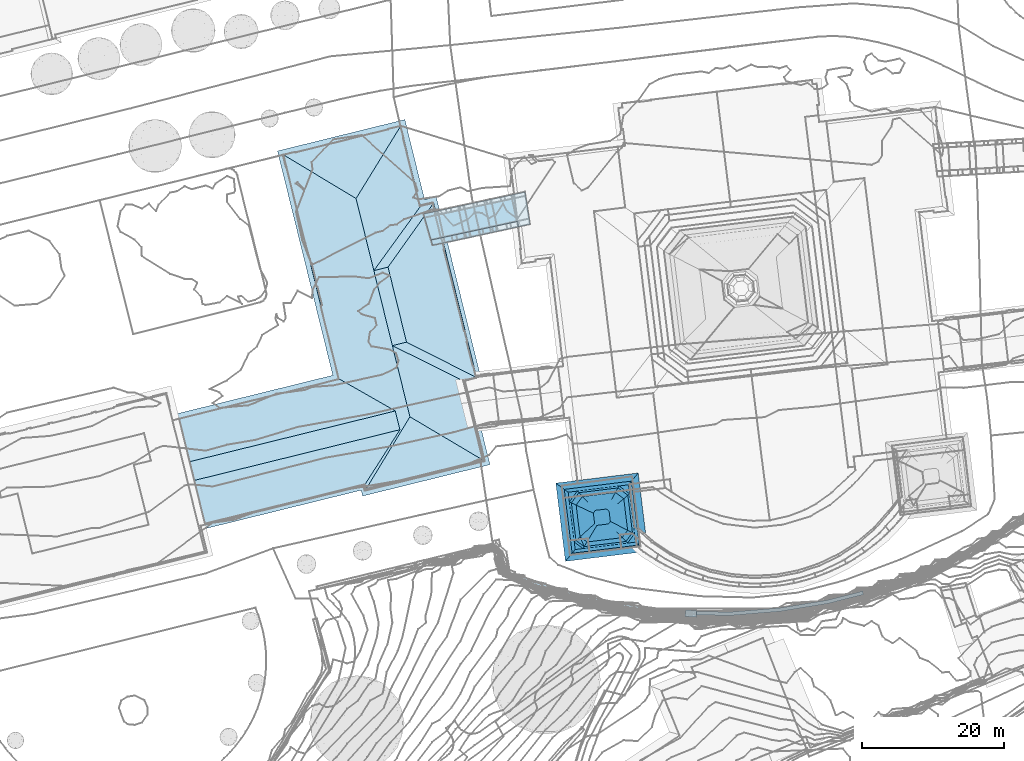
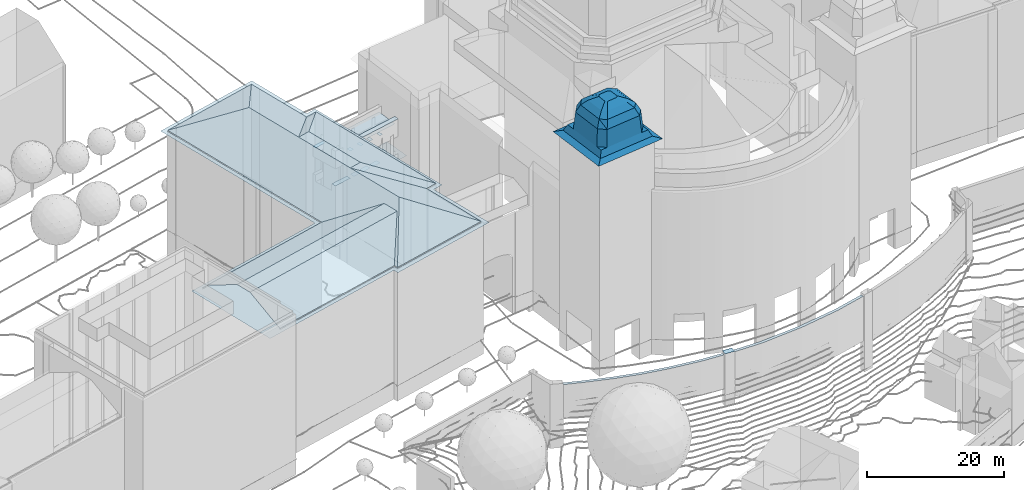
# Not in any storey, part 83 of 477: 18 roofs.
"""IFC4 building model written with IfcOpenShell, lengths in metres."""

from ifc_helpers import new_model, si_unit, frame, origin_with_axes, place, context, subcontext, project, spatial, polygons, element, save


model = new_model("IFC4")

# Units and contexts
model_context = context("Model", 3, precision=1e-05, world=origin_with_axes())
body_context = subcontext(model_context, "Body", "Model", "MODEL_VIEW")
ifc_project = project(units=[si_unit("AREAUNIT", "SQUARE_METRE"), si_unit("LENGTHUNIT", "METRE")], contexts=[model_context])

# Sites, building
site_1_placement = place(None, origin_with_axes())
site_1 = spatial("IfcSite", under=ifc_project, at=site_1_placement, Name="Topoexport Site")
site_2_placement = place(site_1_placement, origin_with_axes())
site_2 = spatial("IfcSite", under=site_1, at=site_2_placement, Name="TPX_BUILDINGS")
building_1_placement = place(site_2_placement, frame((211.8297320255, 101.9383160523, 526.7541), z_axis=(0.0, 0.0, 1.0), x_axis=(1.0, 0.0, 0.0)))
building_1 = spatial("IfcBuilding", under=site_2, at=building_1_placement, Name="Building 18", CompositionType="ELEMENT")

# Roofs
roof_1_placement = place(None, frame((211.8297320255, 101.9383160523, 526.7541), z_axis=(0.0, 0.0, 1.0), x_axis=(1.0, 0.0, 0.0)))
element("IfcRoof", 1, at=roof_1_placement, inside=building_1, Name="Roof 3", context=body_context, shape_type="Tessellation", body=[
    polygons([(276.8790000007, 291.5137000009, 24.302), (279.5840000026, 292.9023000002, 24.302), (279.751000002, 292.1328000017, 24.302), (276.6600000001, 292.2723999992, 24.302)], [[[3, 2, 1]], [[4, 1, 2]]]),
])
roof_2_placement = place(None, frame((211.8297320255, 101.9383160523, 526.7541), z_axis=(0.0, 0.0, 1.0), x_axis=(1.0, 0.0, 0.0)))
element("IfcRoof", 2, at=roof_2_placement, inside=building_1, Name="Roof 5", context=body_context, shape_type="Tessellation", body=[
    polygons([(280.4050000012, 292.2734000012, 24.302), (281.5109999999, 293.317400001, 24.302), (281.6770000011, 292.5478000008, 24.302), (280.2390000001, 293.0430000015, 24.302)], [[[3, 2, 1]], [[4, 1, 2]]]),
])
roof_3_placement = place(None, frame((211.8297320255, 101.9383160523, 526.7541), z_axis=(0.0, 0.0, 1.0), x_axis=(1.0, 0.0, 0.0)))
element("IfcRoof", 3, at=roof_3_placement, inside=building_1, Name="Roof 6", context=body_context, shape_type="Tessellation", body=[
    polygons([(282.0480000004, 293.433600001, 24.302), (283.4030000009, 293.7256000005, 24.302), (283.569000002, 292.9550999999, 24.302), (282.2129999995, 292.6631000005, 24.302)], [[[3, 2, 1]], [[1, 4, 3]]]),
])
roof_4_placement = place(None, frame((211.8297320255, 101.9383160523, 526.7541), z_axis=(0.0, 0.0, 1.0), x_axis=(1.0, 0.0, 0.0)))
element("IfcRoof", 4, at=roof_4_placement, inside=building_1, Name="Roof 7", context=body_context, shape_type="Tessellation", body=[
    polygons([(284.1090000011, 293.0713, 24.302), (285.3049999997, 294.1356999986, 24.302), (285.4720000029, 293.3652000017, 24.302), (283.943, 293.8418000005, 24.302)], [[[3, 2, 1]], [[4, 1, 2]]]),
])
roof_5_placement = place(None, frame((211.8297320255, 101.9383160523, 526.7541), z_axis=(0.0, 0.0, 1.0), x_axis=(1.0, 0.0, 0.0)))
element("IfcRoof", 5, at=roof_5_placement, inside=building_1, Name="Roof 9", context=body_context, shape_type="Tessellation", body=[
    polygons([(290.5290000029, 295.2606999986, 23.1101), (276.8790000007, 291.5137000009, 23.1101), (290.0230000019, 298.4756000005, 23.1101), (275.756000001, 295.4052999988, 23.1101), (290.6510000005, 294.4814000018, 23.1101), (275.7540000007, 295.4101000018, 23.1101), (289.932, 299.0566000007, 23.1101), (275.5940000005, 295.9657999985, 23.1101)], [[[3, 2, 1]], [[4, 2, 3]], [[2, 5, 1]], [[3, 7, 6]], [[3, 6, 4]], [[7, 8, 6]]]),
])
roof_6_placement = place(None, frame((211.8297320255, 101.9383160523, 526.7541), z_axis=(0.0, 0.0, 1.0), x_axis=(1.0, 0.0, 0.0)))
element("IfcRoof", 6, at=roof_6_placement, inside=building_1, Name="Roof 16", context=body_context, shape_type="Tessellation", body=[
    polygons([(283.943, 293.8418000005, 29.1525), (284.1090000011, 293.0722000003, 29.1525), (283.569000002, 292.9560000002, 29.1525), (283.4030000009, 293.7245999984, 29.1525)], [[[3, 2, 1]], [[1, 4, 3]]]),
])
roof_7_placement = place(None, frame((211.8297320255, 101.9383160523, 526.7541), z_axis=(0.0, 0.0, 1.0), x_axis=(1.0, 0.0, 0.0)))
element("IfcRoof", 7, at=roof_7_placement, inside=building_1, Name="Roof 18", context=body_context, shape_type="Tessellation", body=[
    polygons([(280.4050000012, 292.2743999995, 29.1525), (279.5840000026, 292.9023000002, 29.1525), (280.2390000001, 293.0430000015, 29.1525), (279.751000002, 292.1328000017, 29.1525)], [[[3, 2, 1]], [[4, 1, 2]]]),
])
roof_8_placement = place(None, frame((211.8297320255, 101.9383160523, 526.7541), z_axis=(0.0, 0.0, 1.0), x_axis=(1.0, 0.0, 0.0)))
element("IfcRoof", 8, at=roof_8_placement, inside=building_1, Name="Roof 20", context=body_context, shape_type="Tessellation", body=[
    polygons([(285.8230000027, 294.246100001, 29.1525), (285.9890000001, 293.4765000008, 29.1525), (285.4720000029, 293.3662, 29.1525), (285.3049999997, 294.1347000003, 29.1525)], [[[3, 2, 1]], [[1, 4, 3]]]),
])
roof_9_placement = place(None, frame((211.8297320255, 101.9383160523, 526.7541), z_axis=(0.0, 0.0, 1.0), x_axis=(1.0, 0.0, 0.0)))
element("IfcRoof", 9, at=roof_9_placement, inside=building_1, Name="Roof 24", context=body_context, shape_type="Tessellation", body=[
    polygons([(282.2129999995, 292.6631000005, 29.1525), (281.5109999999, 293.316399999, 29.1525), (282.0480000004, 293.432599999, 29.1525), (281.6770000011, 292.5478000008, 29.1525)], [[[3, 2, 1]], [[4, 1, 2]]]),
])
roof_10_placement = place(None, frame((211.8297320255, 101.9383160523, 526.7541), z_axis=(0.0, 0.0, 1.0), x_axis=(1.0, 0.0, 0.0)))
element("IfcRoof", 10, at=roof_10_placement, inside=building_1, Name="Roof 78", context=body_context, shape_type="Tessellation", body=[
    polygons([(299.6730000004, 241.6748000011, 13.1968), (295.568, 242.2245999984, 13.1968), (295.7070000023, 242.7060000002, 13.1968), (299.5620000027, 241.1845999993, 13.1968), (291.0769999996, 243.6523000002, 13.1968), (291.2360000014, 244.128899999, 13.1968), (288.2880000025, 244.6356999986, 13.1968), (288.4350000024, 245.1152000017, 13.1968), (308.8210000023, 239.6748000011, 13.1968), (304.0160000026, 240.3407999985, 13.1968), (308.8740000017, 240.1737999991, 13.1968), (312.5280000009, 239.4081999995, 13.1968), (304.0970000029, 240.8348999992, 13.1968), (312.6000000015, 239.9061999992, 13.1968)], [[[3, 2, 1]], [[1, 2, 4]], [[2, 3, 5]], [[8, 7, 6]], [[5, 6, 7]], [[6, 5, 3]], [[11, 10, 9]], [[11, 9, 12]], [[1, 4, 13]], [[14, 11, 12]], [[13, 10, 11]], [[13, 4, 10]]]),
])
roof_11_placement = place(None, frame((211.8297320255, 101.9383160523, 526.7541), z_axis=(0.0, 0.0, 1.0), x_axis=(1.0, 0.0, 0.0)))
element("IfcRoof", 11, at=roof_11_placement, inside=building_1, Name="Roof 79", context=body_context, shape_type="Tessellation", body=[
    polygons([(314.1160000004, 239.9472000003, 13.5627), (312.4869999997, 239.1259999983, 13.5627), (312.6220000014, 240.0546999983, 13.5627), (314.1410000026, 239.0088, 13.5627)], [[[3, 2, 1]], [[4, 1, 2]]]),
])
roof_12_placement = place(None, frame((211.8297320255, 101.9383160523, 526.7541), z_axis=(0.0, 0.0, 1.0), x_axis=(1.0, 0.0, 0.0)))
element("IfcRoof", 12, at=roof_12_placement, inside=building_1, Name="Roof 80", context=body_context, shape_type="Tessellation", body=[
    polygons([(318.8550000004, 239.754900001, 13.1968), (318.8709999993, 239.2518999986, 13.1968), (314.132000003, 239.3476000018, 13.1968), (314.1180000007, 239.8495999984, 13.1968), (325.882000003, 240.3310000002, 13.1968), (325.943, 239.8330000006, 13.1968), (332.5710000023, 241.4277000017, 13.1968), (332.6730000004, 240.9354999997, 13.1968), (337.6970000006, 242.2089999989, 13.1968), (337.6030000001, 242.7030999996, 13.1968)], [[[3, 2, 1]], [[1, 4, 3]], [[5, 1, 2]], [[2, 6, 5]], [[8, 7, 5]], [[9, 7, 8]], [[7, 9, 10]], [[5, 6, 8]]]),
])

# Building
building_2_placement = place(site_2_placement, frame((516.5377320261, 359.7107160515, 536.6602), z_axis=(0.0, 0.0, 1.0), x_axis=(1.0, 0.0, 0.0)))
building_2 = spatial("IfcBuilding", under=site_2, at=building_2_placement, Name="Building 193", CompositionType="ELEMENT")

# Roofs
roof_13_placement = place(None, frame((516.5377320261, 359.7107160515, 536.6602), z_axis=(0.0, 0.0, 1.0), x_axis=(1.0, 0.0, 0.0)))
element("IfcRoof", 13, at=roof_13_placement, inside=building_2, Name="Roof 18", context=body_context, shape_type="Tessellation", body=[
    polygons([(-16.0130000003, 38.6807000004, 19.2464), (-29.1140000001, 38.1933999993, 19.2464), (-16.2919999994, 40.9571000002, 19.2464), (-28.0480000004, 34.5, 19.2464), (-15.8289999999, 37.1338, 19.2464)], [[[3, 2, 1]], [[4, 1, 2]], [[4, 5, 1]]]),
])
roof_14_placement = place(None, frame((516.5377320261, 359.7107160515, 536.6602), z_axis=(0.0, 0.0, 1.0), x_axis=(1.0, 0.0, 0.0)))
element("IfcRoof", 14, at=roof_14_placement, inside=building_2, Name="Roof 19", context=body_context, shape_type="Tessellation", body=[
    polygons([(-15.7249999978, 36.3476999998, 20.6043), (-28.0480000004, 34.5, 20.6043), (-15.8220000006, 37.134800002, 20.6043), (-27.8289999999, 33.7402999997, 20.6043)], [[[3, 2, 1]], [[4, 1, 2]]]),
])
roof_15_placement = place(None, frame((516.5377320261, 359.7107160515, 536.6602), z_axis=(0.0, 0.0, 1.0), x_axis=(1.0, 0.0, 0.0)))
element("IfcRoof", 15, at=roof_15_placement, inside=building_2, Name="Roof 23", context=body_context, shape_type="Tessellation", body=[
    polygons([(-1.0689999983, -7.5233999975, 44.0418), (-6.0419999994, -8.1327999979, 44.0418), (-5.4679999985, -7.1756999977, 44.8107), (-1.8550000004, -6.7324000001, 44.8107), (-4.6380000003, -5.7890000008, 45.3877), (-2.9930000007, -5.5868999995, 45.3877), (-7.7060000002, -9.1981999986, 39.8132), (-7.8350000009, -8.1464000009, 39.8132), (-6.5980000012, -9.0625, 39.8132), (-0.2989999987, -6.4803999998, 44.0418), (-1.2949999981, -5.9736000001, 44.8107), (-2.737999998, -5.2421000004, 45.3877), (-8.6999999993, -1.1092999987, 39.8132), (-7.4039999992, -0.9501999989, 39.8132), (-8.5319999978, -2.4736000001, 39.8132), (0.813000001, -8.1512999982, 39.8132), (-0.3079999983, -8.2890000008, 39.8132), (0.6680000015, -6.9706999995, 39.8132), (-6.1789999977, -6.6502999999, 44.8107), (-7.5709999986, -2.9247999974, 44.0418), (-6.5789999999, -3.3915999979, 44.8107), (-7.0199999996, -7.4100999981, 44.0418), (-4.9620000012, -5.5497999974, 45.3877), (-5.1429999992, -4.066399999, 45.3877), (-0.5339999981, -8.061499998, 42.7929), (-6.4329999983, -8.7850999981, 42.7929), (-7.5920000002, -7.9256999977, 42.7929), (0.379999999, -6.8251999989, 42.7929), (-8.1359999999, -9.7196999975, 38.7563), (1.3559999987, -8.5537, 38.7563), (-9.2430000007, -0.7060000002, 38.7563), (-8.2459999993, -2.6092999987, 42.7929), (-3.4840000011, -8.4228000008, 42.7889), (-0.3079999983, -8.2890000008, 39.6132), (-6.4329999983, -8.7850999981, 42.5929), (-6.5980000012, -9.0625, 39.6132), (-0.5339999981, -8.061499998, 42.5929), (-7.8350000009, -8.1464000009, 39.6132), (-7.5920000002, -7.9256999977, 42.5929), (-8.2459999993, -2.6092999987, 42.5929), (-8.5319999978, -2.4736000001, 39.6132), (0.379999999, -6.8251999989, 42.5929), (0.6680000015, -6.9706999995, 39.6132)], [[[3, 2, 1]], [[1, 4, 3]], [[5, 3, 4]], [[4, 6, 5]], [[9, 8, 7]], [[1, 10, 4]], [[11, 4, 10]], [[4, 11, 6]], [[12, 6, 11]], [[15, 14, 13]], [[18, 17, 16]], [[21, 20, 19]], [[22, 19, 20]], [[24, 21, 23]], [[19, 23, 21]], [[2, 26, 25]], [[25, 1, 2]], [[26, 22, 27]], [[1, 25, 10]], [[28, 10, 25]], [[29, 9, 7]], [[9, 29, 17]], [[17, 30, 16]], [[30, 17, 29]], [[31, 15, 13]], [[15, 31, 29]], [[8, 29, 7]], [[29, 8, 15]], [[20, 32, 22]], [[27, 22, 32]], [[25, 26, 33]], [[36, 35, 34]], [[37, 34, 35]], [[26, 9, 33]], [[33, 17, 25]], [[17, 33, 9]], [[26, 27, 8]], [[8, 9, 26]], [[39, 35, 38]], [[36, 38, 35]], [[32, 15, 27]], [[8, 27, 15]], [[41, 40, 39]], [[39, 38, 41]], [[28, 25, 18]], [[17, 18, 25]], [[37, 42, 34]], [[43, 34, 42]]]),
])
roof_16_placement = place(None, frame((516.5377320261, 359.7107160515, 536.6602), z_axis=(0.0, 0.0, 1.0), x_axis=(1.0, 0.0, 0.0)))
element("IfcRoof", 16, at=roof_16_placement, inside=building_2, Name="Roof 24", context=body_context, shape_type="Tessellation", body=[
    polygons([(-6.5789999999, -3.3915999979, 44.8107), (-6.6789999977, -1.7206999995, 44.0418), (-5.9299999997, -2.5165999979, 44.8107), (-7.5709999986, -2.9247999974, 44.0418), (-5.1429999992, -4.066399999, 45.3877), (-4.8480000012, -3.6668999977, 45.3877), (-2.0209999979, -1.1483999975, 44.0418), (-2.5469999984, -2.1004999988, 44.8107), (-3.3079999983, -3.4793999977, 45.3877), (-7.0199999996, -7.4100999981, 44.0418), (-6.1789999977, -6.6502999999, 44.8107), (-5.4679999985, -7.1756999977, 44.8107), (-6.0419999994, -8.1327999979, 44.0418), (-4.9620000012, -5.5497999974, 45.3877), (-4.6380000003, -5.7890000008, 45.3877), (-2.737999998, -5.2421000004, 45.3877), (-2.9930000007, -5.5868999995, 45.3877), (-2.9189999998, -3.7665999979, 45.3877), (-0.8460000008, -2.0174999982, 44.0418), (-0.2989999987, -6.4803999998, 44.0418), (-1.2949999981, -5.9736000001, 44.8107), (-1.693, -2.7333999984, 44.8107), (-8.1359999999, -9.7196999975, 38.7563), (1.3559999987, -8.5537, 38.7563), (-8.3619999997, -9.9941000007, 38.6693), (-9.0810000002, -10.8671000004, 38.3933), (2.550999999, -9.4384000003, 38.3933), (-9.2430000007, -0.7060000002, 38.7563), (-9.5489999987, -0.4794999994, 38.6633), (-10.438000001, 0.1777999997, 38.3934), (1.194000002, 1.6075000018, 38.3933), (0.4129999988, 0.6601999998, 38.6933), (0.2490000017, 0.4600000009, 38.7563), (-0.180999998, -0.0634000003, 39.8132), (-0.0260000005, -1.3270999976, 39.8132), (-1.5119999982, -0.2254999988, 39.8132), (-7.188000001, -1.1796000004, 42.7929), (-8.2459999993, -2.6092999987, 42.7929), (-1.6640000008, -0.5009000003, 42.7929), (-6.4329999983, -8.7850999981, 42.7929), (-0.2699999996, -1.5331999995, 42.7929), (0.379999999, -6.8251999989, 42.7929), (-8.6999999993, -1.1092999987, 39.8132), (-7.4039999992, -0.9501999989, 39.8132), (0.813000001, -8.1512999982, 39.8132), (0.6680000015, -6.9706999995, 39.8132), (-8.5319999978, -2.4736000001, 39.8132), (-8.2459999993, -2.6092999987, 42.5929), (-7.4039999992, -0.9501000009, 39.6132), (-8.5319999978, -2.4736000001, 39.6132), (-7.188000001, -1.1796000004, 42.5929), (-1.6640000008, -0.5009000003, 42.5929), (-1.5119999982, -0.2254999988, 39.6132), (-0.0260000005, -1.3270999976, 39.6132), (0.379999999, -6.8251999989, 42.5929), (0.6680000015, -6.9706999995, 39.6132), (-0.2699999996, -1.5331999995, 42.5929)], [[[3, 2, 1]], [[4, 1, 2]], [[3, 1, 5]], [[5, 6, 3]], [[8, 7, 3]], [[2, 3, 7]], [[9, 8, 6]], [[3, 6, 8]], [[12, 11, 10]], [[10, 13, 12]], [[15, 14, 11]], [[11, 12, 15]], [[14, 15, 5]], [[9, 6, 5]], [[5, 15, 9]], [[17, 16, 9]], [[18, 9, 16]], [[17, 9, 15]], [[21, 20, 19]], [[19, 22, 21]], [[16, 21, 22]], [[22, 18, 16]], [[25, 24, 23]], [[27, 25, 26]], [[24, 25, 27]], [[29, 25, 28]], [[26, 29, 30]], [[25, 23, 28]], [[26, 25, 29]], [[32, 31, 29]], [[33, 32, 28]], [[29, 28, 32]], [[30, 29, 31]], [[24, 27, 32]], [[24, 32, 33]], [[32, 27, 31]], [[36, 35, 34]], [[22, 19, 7]], [[7, 8, 22]], [[9, 18, 22]], [[22, 8, 9]], [[2, 37, 4]], [[38, 4, 37]], [[7, 39, 2]], [[37, 2, 39]], [[10, 40, 13]], [[20, 42, 41]], [[41, 19, 20]], [[33, 36, 34]], [[36, 33, 28]], [[44, 28, 43]], [[28, 44, 36]], [[24, 46, 45]], [[46, 24, 35]], [[35, 33, 34]], [[33, 35, 24]], [[19, 41, 39]], [[39, 7, 19]], [[44, 47, 38]], [[38, 37, 44]], [[50, 49, 48]], [[51, 48, 49]], [[39, 36, 37]], [[44, 37, 36]], [[53, 52, 51]], [[51, 49, 53]], [[42, 46, 35]], [[35, 41, 42]], [[56, 55, 54]], [[57, 54, 55]], [[39, 41, 35]], [[35, 36, 39]], [[57, 52, 54]], [[53, 54, 52]]]),
])

# Building
building_3_placement = place(site_2_placement, frame((373.5987320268, 371.2869160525, 536.8784), z_axis=(0.0, 0.0, 1.0), x_axis=(1.0, 0.0, 0.0)))
building_3 = spatial("IfcBuilding", under=site_2, at=building_3_placement, Name="Building 210", CompositionType="ELEMENT")

# Roofs
roof_17_placement = place(None, frame((373.5987320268, 371.2869160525, 536.8784), z_axis=(0.0, 0.0, 1.0), x_axis=(1.0, 0.0, 0.0)))
element("IfcRoof", 17, at=roof_17_placement, inside=building_3, Name="Roof 4", context=body_context, shape_type="Tessellation", body=[
    polygons([(81.4860000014, -11.0166000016, 27.0813), (110.4910000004, -3.8603000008, 27.0812), (105.5549999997, -11.5976000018, 23.7586), (82.9970000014, -17.1416000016, 23.7696), (111.9010000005, -2.0370999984, 27.9842), (109.4230000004, 8.0108000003, 27.9842), (122.2280000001, -8.1611000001, 23.7585), (105.7120000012, -12.2353000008, 23.7586), (78.4129999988, -2.5205000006, 23.7946), (79.3449999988, -2.3348999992, 23.8186), (78.4219999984, -2.5643999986, 23.8186), (78.4019999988, -2.4736000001, 23.7696), (109.8379999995, -1.2148000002, 27.0813), (80.8339999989, -8.370099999, 27.0813), (101.8660000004, 3.3379000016, 23.7586), (115.1840000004, 28.0469000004, 23.8378), (115.1669999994, 28.1182000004, 23.7958), (115.2490000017, 28.1376999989, 23.7958), (108.8110000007, 19.0947999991, 27.9843), (106.8099999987, 18.6015999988, 27.9842), (113.3869999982, 27.6787, 23.7958), (104.2989999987, 28.7822000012, 27.9844), (110.5949999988, 39.0078000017, 23.7588), (108.8539999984, 38.5800999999, 23.7588), (94.0769999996, 34.9316999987, 23.7588), (95.7369999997, 35.3418000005, 23.7588), (119.4659999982, 3.0342000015, 23.7956), (111.4230000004, 8.503899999, 27.9842), (121.2650000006, 3.4765999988, 23.7956), (121.3280000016, 3.4941999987, 23.7956), (94.5029999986, 33.1845999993, 23.5928), (97.1779999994, 22.3594000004, 23.5928), (93.1999999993, 35.4902000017, 23.5928), (94.0769999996, 34.9316999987, 23.5928), (94.2380000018, 34.5615000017, 23.5928), (94.1589999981, 34.8828000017, 23.5928), (110.5650000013, 38.8438000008, 23.5928), (95.7369999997, 35.3418000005, 23.5928), (101.0139999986, 3.8242000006, 23.5926), (99.3209999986, 13.6493999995, 23.5926), (113.9730000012, 28.6435999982, 23.5928), (99.4290000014, 13.4981000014, 23.5926), (97.3079999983, 22.1191999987, 23.5928), (111.0009999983, 37.1387000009, 23.5928), (94.6600000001, 32.8330000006, 23.5928), (113.1350000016, 28.7021999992, 23.5928), (111.188000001, 39.9287, 23.5928), (108.8539999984, 38.5800999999, 23.5928), (110.5949999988, 39.0078000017, 23.5928), (111.0289999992, 37.2626999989, 23.5928), (110.5439999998, 38.9257999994, 23.5928), (115.6079999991, 29.0469000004, 23.5928), (122.0439999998, 2.9648999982, 23.5926), (76.6999999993, -2.1748000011, 23.5926), (78.4019999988, -2.4736000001, 23.5926), (101.8660000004, 3.3379000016, 23.5926), (78.4120000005, -2.5155999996, 23.5926), (80.5949999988, -18.4316000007, 23.5926), (82.9869999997, -17.0986000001, 23.5926), (82.5069999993, -17.9589999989, 23.5926), (82.9970000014, -17.1416000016, 23.5926), (105.5549999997, -11.5976000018, 23.5926), (105.0179999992, -12.4043000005, 23.5926), (101.9479999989, 3.2910000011, 23.5926), (105.2219999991, -13.2305000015, 23.5926), (105.7120000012, -12.2353000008, 23.5926), (105.6059999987, -11.5185000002, 23.5926), (119.6900000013, 2.1259999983, 23.5926), (122.125, -8.0311999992, 23.5926), (120.4079999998, 2.5615000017, 23.5926), (122.2280000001, -8.1611000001, 23.5926), (122.1449999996, -8.1123000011, 23.5926), (105.7619999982, -12.1532999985, 23.5926), (123.2100000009, -8.7910000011, 23.5926), (99.3209999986, 13.6493999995, 23.7586), (94.5029999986, 33.1845999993, 23.7588), (97.1779999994, 22.3594000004, 23.7588), (111.0289999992, 37.2626999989, 23.7648), (113.3610000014, 27.7842000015, 23.7958), (106.4649999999, 37.9902999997, 23.7418), (106.4649999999, 37.9902000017, 23.6098)], [[[3, 2, 1]], [[1, 4, 3]], [[7, 6, 5]], [[8, 7, 5]], [[11, 10, 9]], [[12, 9, 10]], [[15, 14, 13]], [[15, 12, 10]], [[15, 10, 14]], [[14, 1, 13]], [[2, 13, 1]], [[18, 17, 16]], [[16, 17, 19]], [[21, 20, 19]], [[21, 19, 17]], [[20, 23, 22]], [[23, 24, 22]], [[22, 26, 25]], [[26, 22, 24]], [[6, 7, 27]], [[6, 27, 28]], [[28, 27, 29]], [[29, 30, 28]], [[19, 20, 28]], [[6, 28, 20]], [[28, 30, 16]], [[28, 16, 19]], [[16, 30, 18]], [[33, 32, 31]], [[34, 33, 31]], [[37, 36, 35]], [[33, 34, 38]], [[39, 32, 33]], [[39, 40, 32]], [[43, 42, 41]], [[35, 45, 44]], [[46, 45, 43]], [[48, 47, 33]], [[49, 47, 48]], [[48, 33, 38]], [[44, 37, 35]], [[41, 50, 46]], [[51, 36, 37]], [[52, 41, 42]], [[47, 50, 41]], [[46, 43, 41]], [[47, 49, 50]], [[45, 46, 44]], [[42, 53, 52]], [[55, 39, 54]], [[55, 56, 39]], [[40, 39, 56]], [[54, 57, 55]], [[60, 59, 58]], [[59, 60, 61]], [[63, 62, 61]], [[61, 60, 63]], [[64, 57, 59]], [[58, 59, 57]], [[54, 58, 57]], [[66, 63, 65]], [[59, 67, 64]], [[69, 68, 67]], [[64, 67, 68]], [[68, 70, 64]], [[71, 70, 68]], [[42, 70, 53]], [[42, 64, 70]], [[62, 63, 66]], [[73, 72, 69]], [[74, 70, 71]], [[71, 66, 65]], [[65, 74, 71]], [[73, 69, 67]], [[13, 5, 75]], [[5, 13, 2]], [[8, 2, 3]], [[2, 8, 5]], [[75, 5, 6]], [[20, 22, 25]], [[20, 25, 76]], [[13, 75, 15]], [[76, 77, 20]], [[77, 75, 6]], [[6, 20, 77]], [[78, 23, 20]], [[79, 20, 21]], [[20, 79, 78]], [[23, 80, 24]], [[81, 49, 48]]]),
])
roof_18_placement = place(None, frame((373.5987320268, 371.2869160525, 536.8784), z_axis=(0.0, 0.0, 1.0), x_axis=(1.0, 0.0, 0.0)))
element("IfcRoof", 18, at=roof_18_placement, inside=building_3, Name="Roof 8", context=body_context, shape_type="Tessellation", body=[
    polygons([(113.9869999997, 26.0566999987, 19.0282), (115.7430000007, 27.0313000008, 19.0282), (115.8660000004, 26.4629000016, 19.0282), (113.8249999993, 26.6171999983, 19.0282)], [[[3, 2, 1]], [[4, 1, 2]]]),
])

save(model, "model.ifc")
